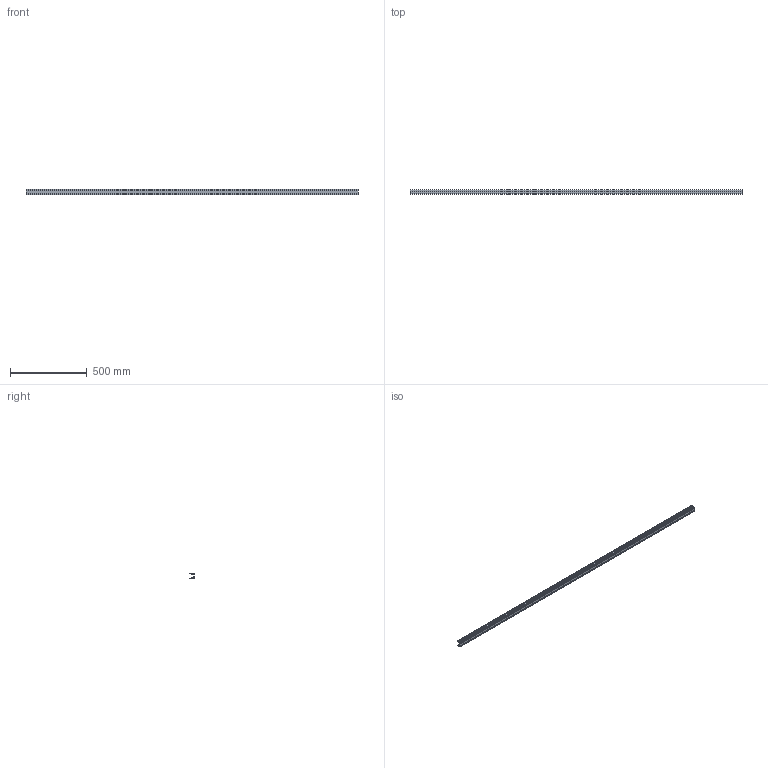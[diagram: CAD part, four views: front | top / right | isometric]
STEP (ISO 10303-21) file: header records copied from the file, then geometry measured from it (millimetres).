
FILE_DESCRIPTION( ( 'STEP AP203' ), '1' );
FILE_NAME( 'C:/Temp/Ganter_Step_05_03_2020/data/3_8/gn_646_3/Carrier profile GN 646.3-2160-A (15).stp', '2020-03-12T15:24:22', ( 'License CC BY-ND 4.0' ), ( 'CADENAS' ), ' ', 'PARTsolutions', ' ' );
FILE_SCHEMA( ( 'CONFIG_CONTROL_DESIGN' ) );
Length unit declared in the file: millimetre
Products named in the file (1): _Carrier profile GN 646.3-2160-A (15)
Bounding box: 2160 x 26.5 x 36 mm (x, y, z)
Volume: 362745.8 mm3; surface area: 453715.2 mm2
Topology: 1 solids, 1 shells, 112 faces, 330 edges, 220 vertices
Faces by surface type: plane 70, cylinder 42
Entity records: 3782 total; most frequent: CARTESIAN_POINT 663, ORIENTED_EDGE 660, DIRECTION 640, EDGE_CURVE 330, LINE 246, VECTOR 246, VERTEX_POINT 220, AXIS2_PLACEMENT_3D 197
